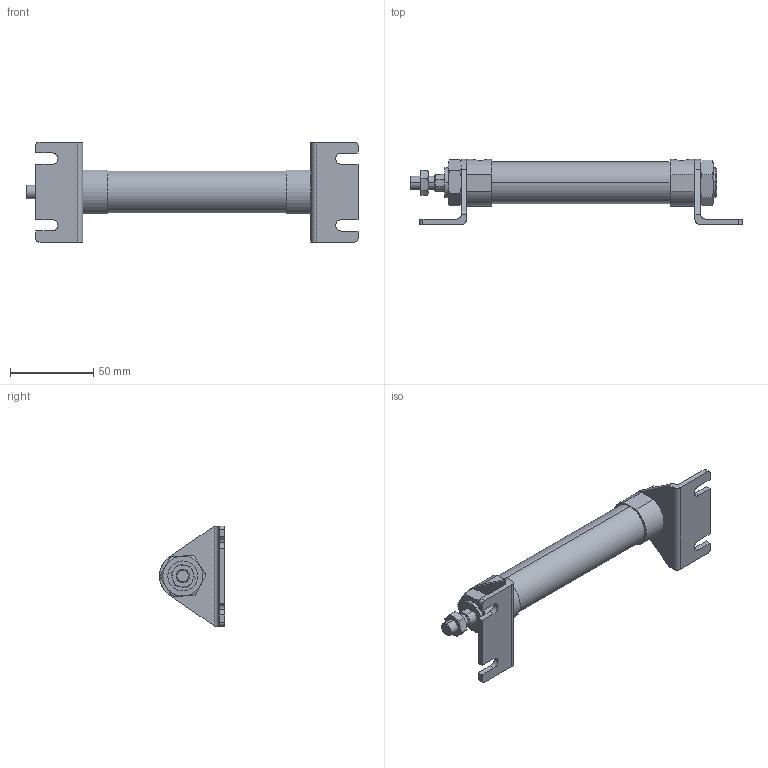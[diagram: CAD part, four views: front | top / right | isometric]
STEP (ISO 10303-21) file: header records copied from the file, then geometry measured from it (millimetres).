
FILE_DESCRIPTION (( 'STEP AP203' ), '1' );
FILE_NAME ('J#2-20-75-L.STEP', '2016-03-10T00:50:04', ( '' ), ( '' ), 'SwSTEP 2.0', 'SolidWorks 2014', '' );
FILE_SCHEMA (( 'CONFIG_CONTROL_DESIGN' ));
Length unit declared in the file: millimetre
Products named in the file (5): J#2-20-75; J#2-20-L; J#2-20-75-L
Assembly tree (6 placements, depth 2):
  J#2-20-75-L
    J#2-20-75
    (unnamed)
    (unnamed)  x2
    J#2-20-L  x2
Bounding box: 199.2 x 39 x 60 mm (x, y, z)
Volume: 98795.9 mm3; surface area: 31174.1 mm2
Topology: 6 solids, 6 shells, 168 faces, 392 edges, 246 vertices
Faces by surface type: plane 74, cylinder 52, torus 36, cone 6
Entity records: 4278 total; most frequent: CARTESIAN_POINT 1025, DIRECTION 577, ORIENTED_EDGE 542, EDGE_CURVE 271, AXIS2_PLACEMENT_3D 234, VERTEX_POINT 170, EDGE_LOOP 135, ADVANCED_FACE 119
